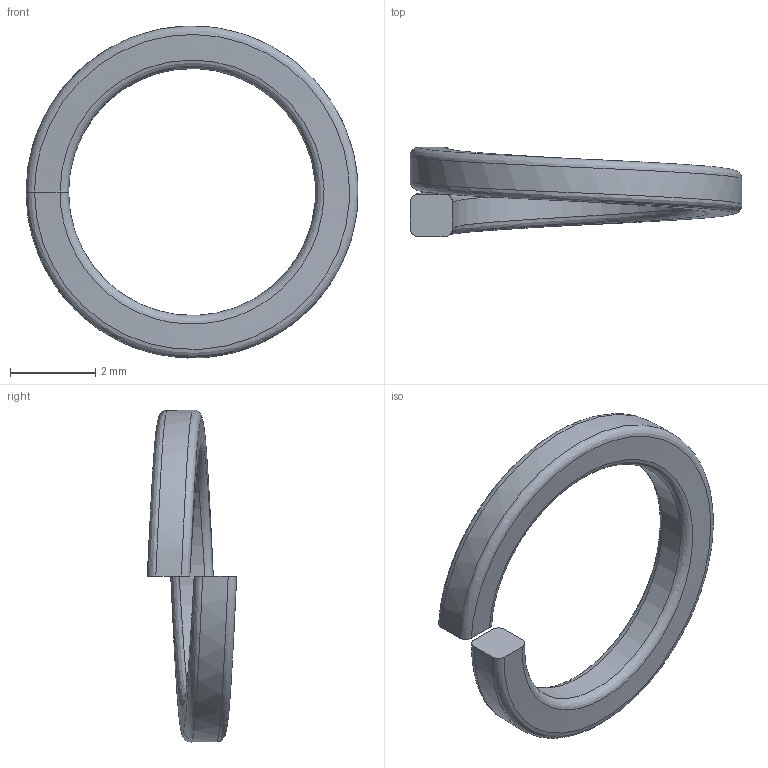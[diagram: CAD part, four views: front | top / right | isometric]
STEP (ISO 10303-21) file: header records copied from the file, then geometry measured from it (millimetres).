
FILE_DESCRIPTION (( 'STEP AP203' ), '1' );
FILE_NAME ('160-CE-SW-5.STEP', '2015-07-09T09:09:55', ( '' ), ( '' ), 'SwSTEP 2.0', 'SolidWorks 2013', '' );
FILE_SCHEMA (( 'CONFIG_CONTROL_DESIGN' ));
Length unit declared in the file: millimetre
Products named in the file (1): 160-CE-SW-5
Bounding box: 7.8 x 2.1 x 7.8 mm (x, y, z)
Volume: 20.6 mm3; surface area: 80.1 mm2
Topology: 1 solids, 1 shells, 10 faces, 24 edges, 16 vertices
Faces by surface type: bspline 8, plane 2
Entity records: 1813 total; most frequent: CARTESIAN_POINT 1563, ORIENTED_EDGE 48, EDGE_CURVE 24, B_SPLINE_CURVE_WITH_KNOTS 16, VERTEX_POINT 16, DIRECTION 14, ADVANCED_FACE 10, EDGE_LOOP 10
